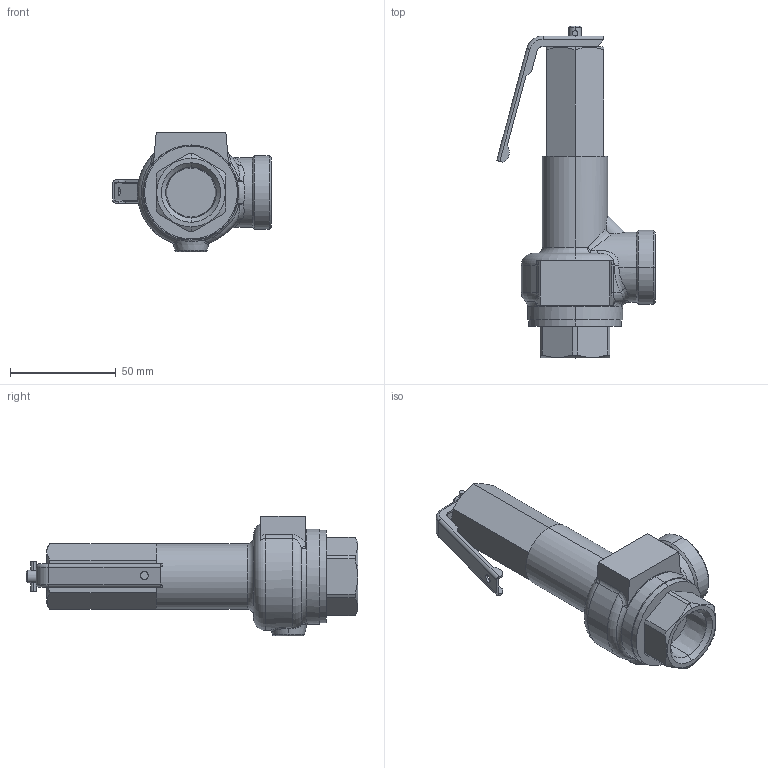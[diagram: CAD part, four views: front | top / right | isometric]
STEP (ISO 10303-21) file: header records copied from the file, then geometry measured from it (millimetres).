
FILE_DESCRIPTION (( 'STEP AP203' ), '1' );
FILE_NAME ('AL-150TML 20A.STEP', '2026-01-08T02:21:57', ( '' ), ( '' ), 'SwSTEP 2.0', 'SolidWorks 2024', '' );
FILE_SCHEMA (( 'CONFIG_CONTROL_DESIGN' ));
Length unit declared in the file: millimetre
Products named in the file (3): AL-150TML 20A; AL-150ML 20A(Non-Lever); AL-12 Lever
Assembly tree (2 placements, depth 2):
  AL-150TML 20A
    AL-150ML 20A(Non-Lever)
    AL-12 Lever
Bounding box: 75.09 x 157.25 x 56.5 mm (x, y, z)
Volume: 154787 mm3; surface area: 27571.4 mm2
Topology: 2 solids, 2 shells, 179 faces, 437 edges, 266 vertices
Faces by surface type: plane 61, cylinder 53, cone 22, bspline 19, torus 18, sphere 6
Entity records: 7118 total; most frequent: CARTESIAN_POINT 2694, DIRECTION 879, ORIENTED_EDGE 870, EDGE_CURVE 435, AXIS2_PLACEMENT_3D 354, VERTEX_POINT 266, CIRCLE 189, EDGE_LOOP 189
